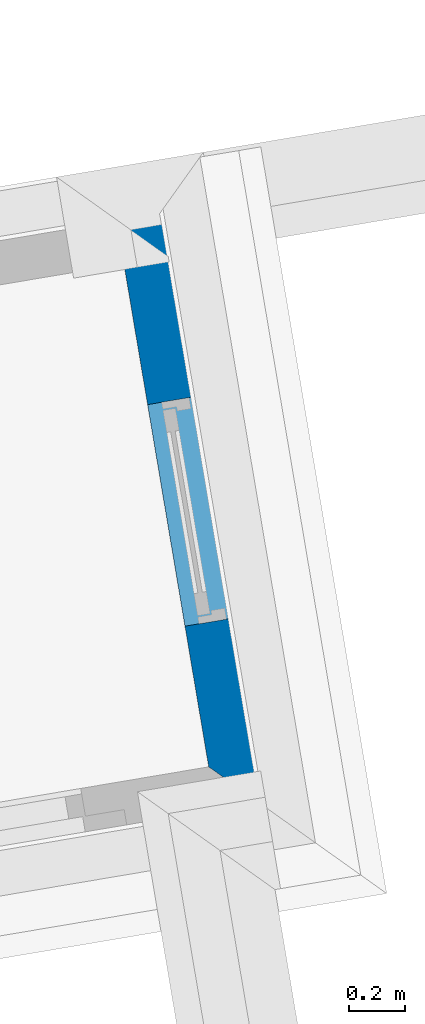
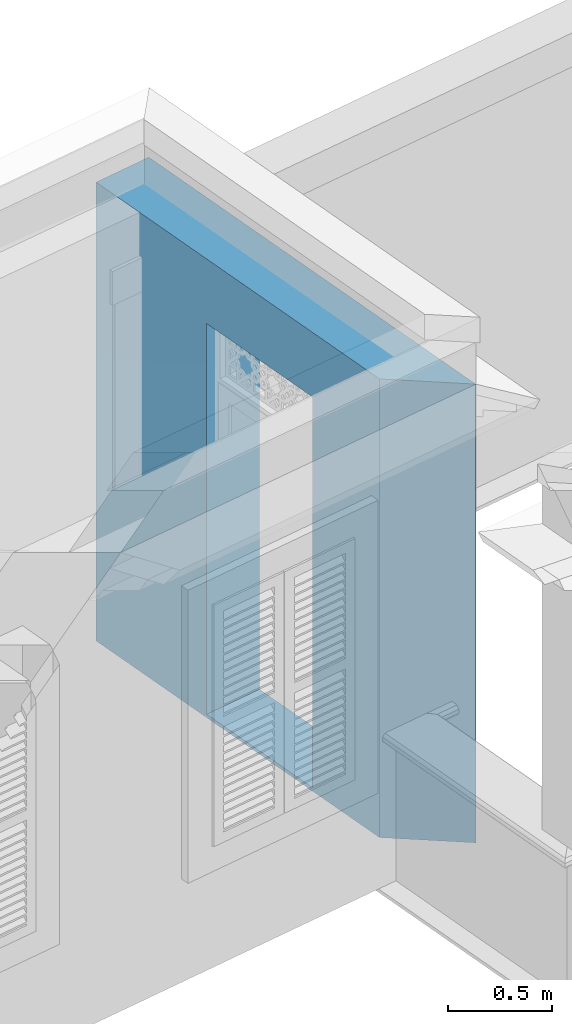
# One storey, part 9 of 12: 1 wall, 1 opening.
"""IFC4 building model written with IfcOpenShell, lengths in metres."""

import ifcopenshell
import ifcopenshell.guid

model = None  # the IFC model being written
_history = None  # IfcOwnerHistory: only IFC2X3 demands one
_inside = {}  # id of a spatial element -> (the spatial element, [elements in it])
_under = {}  # id of a project, library or spatial element -> (it, [spatial elements below it])
_declared = {}  # id of a project -> (the project, [libraries it declares])
_typed = {}  # id of a type object -> (the type object, [elements of that type])
_made_of = {}  # id of a material, layer set ... -> (it, [elements and type objects made of it])


def new_model(schema):
    """Start an empty IFC model of exactly this schema.

    Asked for "IFC4X3", IfcOpenShell would pick the latest addendum, in which some entities
    have other attributes; the version numbers below select the first issue.
    IFC2X3 requires an IfcOwnerHistory on every rooted entity: one is made here for all.
    """
    global model, _history
    if schema == "IFC4X3":
        model = ifcopenshell.file(schema_version=(4, 3, 0, 0))
    else:
        model = ifcopenshell.file(schema=schema)
    _inside.clear()
    _under.clear()
    _declared.clear()
    _typed.clear()
    _made_of.clear()
    _history = None
    if model.schema == "IFC2X3":
        org = make("IfcOrganization", Name="unknown")
        user = make(
            "IfcPersonAndOrganization",
            ThePerson=make("IfcPerson", FamilyName="unknown"),
            TheOrganization=org,
        )
        app = make(
            "IfcApplication",
            ApplicationDeveloper=org,
            Version="unknown",
            ApplicationFullName="unknown",
            ApplicationIdentifier="unknown",
        )
        _history = make(
            "IfcOwnerHistory",
            OwningUser=user,
            OwningApplication=app,
            ChangeAction="ADDED",
            CreationDate=0,
        )
    return model


def make(cls, **values):
    """One entity of the class cls with the attributes given. An attribute that is None is left unset."""
    return model.create_entity(
        cls, **{name: value for name, value in values.items() if value is not None}
    )


def rooted(cls, **values):
    """An entity with a GlobalId (a new one), such as an element, a storey or a relation."""
    return make(cls, GlobalId=ifcopenshell.guid.new(), OwnerHistory=_history, **values)


def si_unit(unit_type, name, prefix=None):
    """IfcSIUnit, for example si_unit("LENGTHUNIT", "METRE", prefix="MILLI")."""
    return make("IfcSIUnit", UnitType=unit_type, Prefix=prefix, Name=name)


def assignment(units):
    """IfcUnitAssignment: the units of a project."""
    return None if units is None else make("IfcUnitAssignment", Units=units)


def point(xyz):
    """IfcCartesianPoint."""
    return None if xyz is None else make("IfcCartesianPoint", Coordinates=xyz)


def direction(xyz):
    """IfcDirection."""
    return None if xyz is None else make("IfcDirection", DirectionRatios=xyz)


def frame(location, z_axis=None, x_axis=None):
    """IfcAxis2Placement3D, a coordinate frame: its origin and axes. An axis left out is left unset."""
    return make(
        "IfcAxis2Placement3D",
        Location=point(location),
        Axis=direction(z_axis),
        RefDirection=direction(x_axis),
    )


def origin_with_axes():
    """The frame at (0, 0, 0) with the z axis (0, 0, 1) and the x axis (1, 0, 0) written out."""
    return frame((0.0, 0.0, 0.0), z_axis=(0.0, 0.0, 1.0), x_axis=(1.0, 0.0, 0.0))


def place(relative_to, where):
    """IfcLocalPlacement: puts the frame where relative to a parent placement (None: the world)."""
    return make(
        "IfcLocalPlacement", PlacementRelTo=relative_to, RelativePlacement=where
    )


def context(
    kind, dimensions, precision=None, world=None, true_north=None, identifier=None
):
    """IfcGeometricRepresentationContext, for example the 3D "Model" context."""
    return make(
        "IfcGeometricRepresentationContext",
        ContextIdentifier=identifier,
        ContextType=kind,
        CoordinateSpaceDimension=dimensions,
        Precision=precision,
        WorldCoordinateSystem=world,
        TrueNorth=true_north,
    )


def subcontext(parent, identifier, kind, view, scale=None):
    """IfcGeometricRepresentationSubContext, for example "Body" below "Model"."""
    return make(
        "IfcGeometricRepresentationSubContext",
        ContextIdentifier=identifier,
        ContextType=kind,
        ParentContext=parent,
        TargetScale=scale,
        TargetView=view,
    )


def project(units=None, contexts=None):
    """IfcProject with its units and contexts."""
    return rooted(
        "IfcProject",
        Name="project",
        RepresentationContexts=contexts,
        UnitsInContext=assignment(units),
    )


def spatial(cls, under=None, at=None, **own):
    """A site, building, storey or space (cls), placed at a placement, below another one or the project."""
    s = rooted(cls, ObjectPlacement=at, **own)
    if under is not None:
        _under.setdefault(under.id(), (under, []))[1].append(s)
    return s


def polyline(points):
    """IfcPolyline through the points."""
    return make("IfcPolyline", Points=[point(p) for p in points])


def outline(outer, holes=None, kind="AREA"):
    """IfcArbitraryClosedProfileDef: a profile drawn as a closed curve; with holes, ...WithVoids."""
    if holes is None:
        return make("IfcArbitraryClosedProfileDef", ProfileType=kind, OuterCurve=outer)
    return make(
        "IfcArbitraryProfileDefWithVoids",
        ProfileType=kind,
        OuterCurve=outer,
        InnerCurves=holes,
    )


def extrude(swept, where, along, depth):
    """IfcExtrudedAreaSolid: the profile swept, set in the frame where, extruded along a direction by depth."""
    return make(
        "IfcExtrudedAreaSolid",
        SweptArea=swept,
        Position=where,
        ExtrudedDirection=direction(along),
        Depth=depth,
    )


def shape(context_of_items, identifier, shape_type, items):
    """IfcShapeRepresentation: the items that make up one representation, for example the "Body"."""
    return make(
        "IfcShapeRepresentation",
        ContextOfItems=context_of_items,
        RepresentationIdentifier=identifier,
        RepresentationType=shape_type,
        Items=items,
    )


def material(Name=None, Category=None):
    """IfcMaterial."""
    return make("IfcMaterial", Name=Name, Category=Category)


def layer(
    of_material, thickness, ventilated=None, Name=None, Category=None, Priority=None
):
    """IfcMaterialLayer: one layer of a wall or slab, of a material (None: an air gap)."""
    return make(
        "IfcMaterialLayer",
        Material=of_material,
        LayerThickness=thickness,
        IsVentilated=ventilated,
        Name=Name,
        Category=Category,
        Priority=Priority,
    )


def layer_set(layers, Name=None):
    """IfcMaterialLayerSet."""
    return make("IfcMaterialLayerSet", MaterialLayers=layers, LayerSetName=Name)


def layer_usage(for_layer_set, set_direction, sense, offset, extent=None):
    """IfcMaterialLayerSetUsage: how a layer set lies in its element."""
    return make(
        "IfcMaterialLayerSetUsage",
        ForLayerSet=for_layer_set,
        LayerSetDirection=set_direction,
        DirectionSense=sense,
        OffsetFromReferenceLine=offset,
        ReferenceExtent=extent,
    )


def made_of(thing, what):
    """Note that an element or type object is made of a material, layer set ...; save() writes the relation."""
    if what is not None:
        _made_of.setdefault(what.id(), (what, []))[1].append(thing)
    return thing


def type_object(cls, material=None, **own):
    """A type object (cls), such as IfcWallType, which elements share."""
    return made_of(rooted(cls, **own), material)


def element(
    cls,
    number,
    at=None,
    inside=None,
    cuts=None,
    type_object=None,
    material=None,
    context=None,
    identifier="Body",
    shape_type=None,
    held_by="IfcProductDefinitionShape",
    body=None,
    shapes=None,
    **own,
):
    """One element of the class cls, such as IfcWall. Its Tag is "e" and its number.

    at: its placement. inside: the storey or other place that contains it. cuts: it is an
    opening in that element (IfcRelVoidsElement). A single representation is given by context,
    identifier, shape_type and body (its items); several are given by shapes. held_by: the class
    of the entity that holds the representations. save() writes the other relations.
    """
    e = rooted(cls, Tag="e%d" % number, ObjectPlacement=at, **own)
    if body is not None:
        shapes = [shape(context, identifier, shape_type, body)]
    if shapes is not None:
        e.Representation = make(held_by, Representations=shapes)
    if inside is not None:
        _inside.setdefault(inside.id(), (inside, []))[1].append(e)
    if cuts is not None:
        rooted(
            "IfcRelVoidsElement", RelatingBuildingElement=cuts, RelatedOpeningElement=e
        )
    if type_object is not None:
        _typed.setdefault(type_object.id(), (type_object, []))[1].append(e)
    return made_of(e, material)


def aggregate(whole, parts):
    """IfcRelAggregates: a whole, such as a stair, and the parts it consists of."""
    return rooted("IfcRelAggregates", RelatingObject=whole, RelatedObjects=parts)


def save(model, path):
    """Write the relations noted so far, then the file.

    IfcRelAggregates (storeys below a building ...), IfcRelContainedInSpatialStructure (elements
    in a storey), IfcRelDefinesByType, IfcRelAssociatesMaterial and IfcRelDeclares: one each for
    every whole, place, type object, material and project.
    """
    for whole, parts in _under.values():
        aggregate(whole, parts)
    for where, things in _inside.values():
        rooted(
            "IfcRelContainedInSpatialStructure",
            RelatedElements=things,
            RelatingStructure=where,
        )
    for kind, things in _typed.values():
        rooted("IfcRelDefinesByType", RelatedObjects=things, RelatingType=kind)
    for what, things in _made_of.values():
        rooted("IfcRelAssociatesMaterial", RelatedObjects=things, RelatingMaterial=what)
    for by, libraries in _declared.values():
        rooted("IfcRelDeclares", RelatingContext=by, RelatedDefinitions=libraries)
    model.write(path)


model = new_model("IFC4")

# Units and contexts
model_context = context("Model", 3, world=origin_with_axes())
body_context = subcontext(model_context, "Body", "Model", "MODEL_VIEW")
ifc_project = project(units=[si_unit("PLANEANGLEUNIT", "RADIAN"), si_unit("MASSUNIT", "GRAM", prefix="KILO"), si_unit("FORCEUNIT", "NEWTON", prefix="KILO"), si_unit("LENGTHUNIT", "METRE"), si_unit("AREAUNIT", "SQUARE_METRE"), si_unit("VOLUMEUNIT", "CUBIC_METRE")], contexts=[model_context, model_context])

# Site, building, storey
site_placement = place(None, origin_with_axes())
site = spatial("IfcSite", under=ifc_project, at=site_placement, Name="Site plot-6", CompositionType="ELEMENT")
building_placement = place(None, origin_with_axes())
building = spatial("IfcBuilding", under=site, at=building_placement, Name="Building plot-6", CompositionType="ELEMENT")
storey_placement = place(None, frame((0.0, 0.0, 3.6), z_axis=(0.0, 0.0, 1.0), x_axis=(1.0, 0.0, 0.0)))
storey = spatial("IfcBuildingStorey", under=building, at=storey_placement, Name="plot-6 1", CompositionType="ELEMENT", Elevation=3.6)

# Wall, opening
ifc_material = material(Name="Masonry")
ifc_layer = layer(ifc_material, 0.33, ventilated=False)
ifc_layer_set = layer_set([ifc_layer], Name="exterior_0.08_0.25")
ifc_layer_usage = layer_usage(ifc_layer_set, "AXIS2", "POSITIVE", -0.25)
wall_type = type_object("IfcWallType", Name="exterior_0.08_0.25", PredefinedType="SOLIDWALL", material=ifc_layer_set)
wall_placement = place(storey_placement, frame((-3.0138636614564, 3.32831348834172, 0.0), z_axis=(0.0, 0.0, 1.0), x_axis=(-0.166292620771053, 0.986076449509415, 0.0)))
wall = element("IfcWall", 1, at=wall_placement, inside=storey, type_object=wall_type, material=ifc_layer_usage, Name="exterior", context=body_context, shape_type="SweptSolid", body=[
    extrude(outline(polyline([(0.0799999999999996, 0.08), (-0.25, -0.25), (2.225799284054, -0.25), (2.225799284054, 0.0799999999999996), (0.0799999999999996, 0.08)])), origin_with_axes(), (0.0, 0.0, 1.0), 2.7),
])
opening_placement = place(wall_placement, frame((0.587899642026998, 0.0, 0.02)))
element("IfcOpeningElement", 2, at=opening_placement, cuts=wall, Name="My Opening", ObjectType="Opening", context=body_context, shape_type="SweptSolid", body=[
    extrude(outline(polyline([(0.0, -0.27), (0.8, -0.27), (0.800000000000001, 1.1), (0.0, 1.1), (0.0, -0.27)])), origin_with_axes(), (0.0, 0.0, 1.0), 2.3),
])

save(model, "model.ifc")
